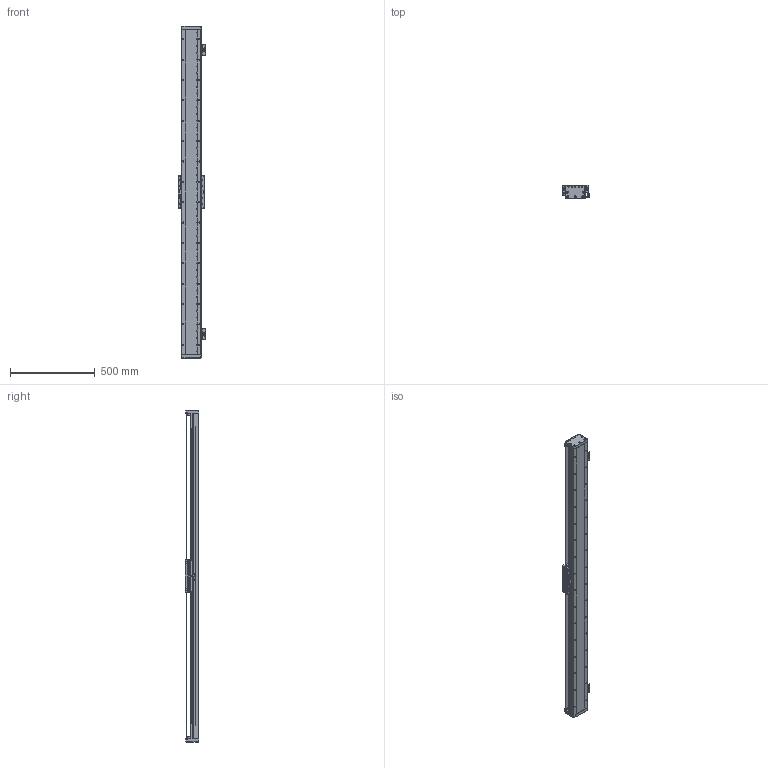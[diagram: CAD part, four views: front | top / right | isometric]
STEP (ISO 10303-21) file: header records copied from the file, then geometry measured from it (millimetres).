
FILE_DESCRIPTION (( 'STEP AP203' ), '1' );
FILE_NAME ('DA-B115-B2-T1680-C010-0.2-HG-29575 眻盄萇儂.STEP', '2024-11-14T09:19:21', ( '' ), ( '' ), 'SwSTEP 2.0', 'SolidWorks 2019', '' );
FILE_SCHEMA (( 'CONFIG_CONTROL_DESIGN' ));
Length unit declared in the file: millimetre
Products named in the file (28): PM-Y65嫖萇羲壽郪璃_00; 复件 DA95-B2-YB-A-00 压板A^BU115-M  滚珠滑台; 23519-0000-002-00 菁釱_L1920; 葩璃 BKM01C-W075-TRL^DA-B115-B2-T1680-C010-0.2-HG-29575 眻盄萇儂; BU115-M  幗紩賑怢; 复件 复件 DA115-GDLK-00 钢带拉块^DA-B115-B2-T1680-C010-0.2-HG-29575 直线电机; 复件 纯铜油杯 6x6mm^BU115-M  滚珠滑台; 复件 复件 DA95-HXJ-00 缓冲橡胶^DA-B115-B2-T1680-C010-0.2-HG-29575 直线电机; 葩璃 DA95-B2-DP-B-00 菜えB^BU115-M  幗紩賑怢; 复件 DA95-B2-DK-00 挡块^BU115-M  滚珠滑台; 66245-BU115-HT-M-01 賑雄怢啣; DA-B115-B2-T1680-C010-0.2-HG-29575 眻盄萇儂; 复件 DA95-MFP-01 密封片^BU115-M  滚珠滑台; BU115 XD-U-02L ｴﾅﾕ､ｳﾟ^DA-B115-B2-T1680-C010-0.2-HG-29575 ﾖｱﾏﾟｵ扈銈BU115; 复件 DA95-B2-GT-00 滑块钢轨^66245-BU115-M-00  一体化滑动台板; 复件 复件 DA115-GDYK-00  钢带压块^DA-B115-B2-T1680-C010-0.2-HG-29575 直线电机; 23519-0000-001-00 菁釱絳寢; 22746-0001-003-00 換覜ん嘐隅啣; 葩璃 BKM02-W075-C1C2-TP-DA-0.2 ^DA-B115-B2-T1680-C010-0.2-HG-29575 眻盄萇儂; 17414-0001-001-00 嫖萇覜茼え; 复件 DA95-DB-00  挡板^BU115-M  滚珠滑台; 葩璃 DA95-GT-T-00 菁釱詩寢_T600; DA115 詩湍裔啣; 复件 复件 DA115-GD-DG-H-00 端盖^DA-B115-B2-T1680-C010-0.2-HG-29575 直线电机; 复件 DMA-010-0.2 读数头^DA-B115-B2-T1680-C010-0.2-HG-29575 直线电机; 葩璃 DA95-B2-DP-A-00 菜えA^BU115-M  幗紩賑怢; 66245-BU115-M-00  珨极趙賑雄怢啣; 复件 DA95-B2-YB-B-00 压板B^BU115-M  滚珠滑台
Assembly tree (53 placements, depth 4):
  DA-B115-B2-T1680-C010-0.2-HG-29575 眻盄萇儂
    23519-0000-001-00 菁釱絳寢
      23519-0000-002-00 菁釱_L1920
      葩璃 DA95-GT-T-00 菁釱詩寢_T600  x2
    BU115 XD-U-02L ｴﾅﾕ､ｳﾟ^DA-B115-B2-T1680-C010-0.2-HG-29575 ﾖｱﾏﾟｵ扈銈BU115
    葩璃 BKM01C-W075-TRL^DA-B115-B2-T1680-C010-0.2-HG-29575 眻盄萇儂
    复件 DMA-010-0.2 读数头^DA-B115-B2-T1680-C010-0.2-HG-29575 直线电机
    葩璃 BKM02-W075-C1C2-TP-DA-0.2 ^DA-B115-B2-T1680-C010-0.2-HG-29575 眻盄萇儂
    BU115-M  幗紩賑怢
      葩璃 DA95-B2-DP-B-00 菜えB^BU115-M  幗紩賑怢  x2
      复件 DA95-B2-YB-B-00 压板B^BU115-M  滚珠滑台  x2
      复件 DA95-B2-DK-00 挡块^BU115-M  滚珠滑台  x3
      复件 DA95-DB-00  挡板^BU115-M  滚珠滑台  x4
      复件 DA95-MFP-01 密封片^BU115-M  滚珠滑台  x4
      复件 纯铜油杯 6x6mm^BU115-M  滚珠滑台  x4
      66245-BU115-M-00  珨极趙賑雄怢啣
        66245-BU115-HT-M-01 賑雄怢啣
        复件 DA95-B2-GT-00 滑块钢轨^66245-BU115-M-00  一体化滑动台板  x4
      复件 DA95-B2-YB-A-00 压板A^BU115-M  滚珠滑台
      葩璃 DA95-B2-DP-A-00 菜えA^BU115-M  幗紩賑怢
    复件 复件 DA115-GD-DG-H-00 端盖^DA-B115-B2-T1680-C010-0.2-HG-29575 直线电机  x2
    复件 复件 DA115-GDYK-00  钢带压块^DA-B115-B2-T1680-C010-0.2-HG-29575 直线电机  x2
    DA115 詩湍裔啣
    复件 复件 DA115-GDLK-00 钢带拉块^DA-B115-B2-T1680-C010-0.2-HG-29575 直线电机  x2
    复件 复件 DA95-HXJ-00 缓冲橡胶^DA-B115-B2-T1680-C010-0.2-HG-29575 直线电机  x4
    17414-0001-001-00 嫖萇覜茼え
    22746-0001-003-00 換覜ん嘐隅啣  x2
    PM-Y65嫖萇羲壽郪璃_00  x3
Bounding box: 164.2 x 78 x 1956 mm (x, y, z)
Volume: 7401825.1 mm3; surface area: 2573871.8 mm2
Topology: 51 solids, 51 shells, 3128 faces, 9015 edges, 5738 vertices
Faces by surface type: cylinder 1557, plane 1219, cone 298, torus 42, sphere 12
Entity records: 94206 total; most frequent: CARTESIAN_POINT 25291, ORIENTED_EDGE 13910, DIRECTION 13546, EDGE_CURVE 6955, AXIS2_PLACEMENT_3D 5074, VERTEX_POINT 4515, VECTOR 3398, LINE 3398
